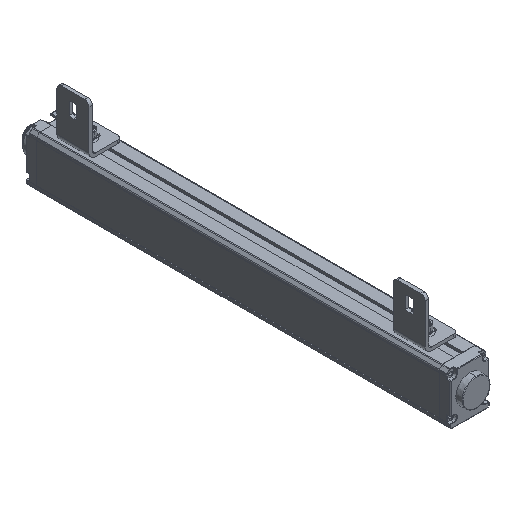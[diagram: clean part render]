
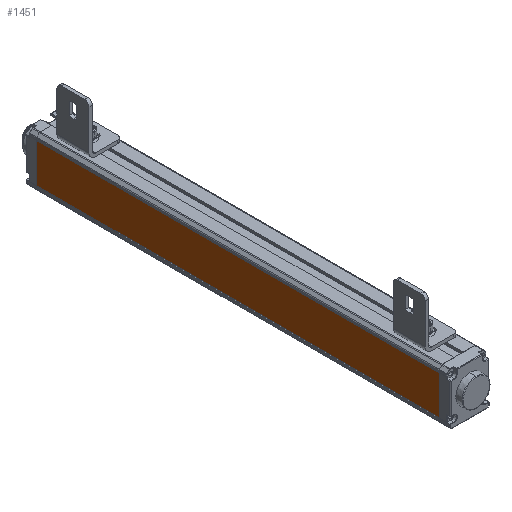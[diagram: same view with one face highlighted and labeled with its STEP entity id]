
A CAD part, isometric view. The second image highlights one B-rep face of the part: STEP entity #1451.
In plain terms, the highlighted planar face has unit normal (-1, 0, 0).
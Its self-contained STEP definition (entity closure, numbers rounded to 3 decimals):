
#24=DIRECTION('',(0.,0.,1.));
#25=VECTOR('',#24,35.4);
#26=CARTESIAN_POINT('',(-17.7,-182.5,-18.1));
#27=LINE('',#26,#25);
#361=DIRECTION('',(0.,0.,1.));
#362=VECTOR('',#361,35.4);
#363=CARTESIAN_POINT('',(-17.7,182.5,-18.1));
#364=LINE('',#363,#362);
#534=DIRECTION('',(0.,1.,0.));
#535=VECTOR('',#534,365.);
#536=CARTESIAN_POINT('',(-17.7,-182.5,17.3));
#537=LINE('',#536,#535);
#538=DIRECTION('',(0.,1.,0.));
#539=VECTOR('',#538,365.);
#540=CARTESIAN_POINT('',(-17.7,-182.5,-18.1));
#541=LINE('',#540,#539);
#613=CARTESIAN_POINT('',(-17.7,-182.5,-18.1));
#615=VERTEX_POINT('',#613);
#616=CARTESIAN_POINT('',(-17.7,-182.5,17.3));
#617=VERTEX_POINT('',#616);
#633=CARTESIAN_POINT('',(-17.7,182.5,-18.1));
#635=VERTEX_POINT('',#633);
#636=CARTESIAN_POINT('',(-17.7,182.5,17.3));
#637=VERTEX_POINT('',#636);
#1439=CARTESIAN_POINT('',(-17.7,-182.5,-18.1));
#1440=DIRECTION('',(-1.,0.,0.));
#1441=DIRECTION('',(0.,0.,1.));
#1442=AXIS2_PLACEMENT_3D('',#1439,#1440,#1441);
#1443=PLANE('',#1442);
#1444=ORIENTED_EDGE('',*,*,#741,.F.);
#1446=ORIENTED_EDGE('',*,*,#1445,.T.);
#1447=ORIENTED_EDGE('',*,*,#933,.T.);
#1448=ORIENTED_EDGE('',*,*,#1432,.F.);
#1449=EDGE_LOOP('',(#1444,#1446,#1447,#1448));
#1450=FACE_OUTER_BOUND('',#1449,.F.);
#1451=ADVANCED_FACE('',(#1450),#1443,.T.);
#741=EDGE_CURVE('',#615,#617,#27,.T.);
#933=EDGE_CURVE('',#635,#637,#364,.T.);
#1432=EDGE_CURVE('',#617,#637,#537,.T.);
#1445=EDGE_CURVE('',#615,#635,#541,.T.);
